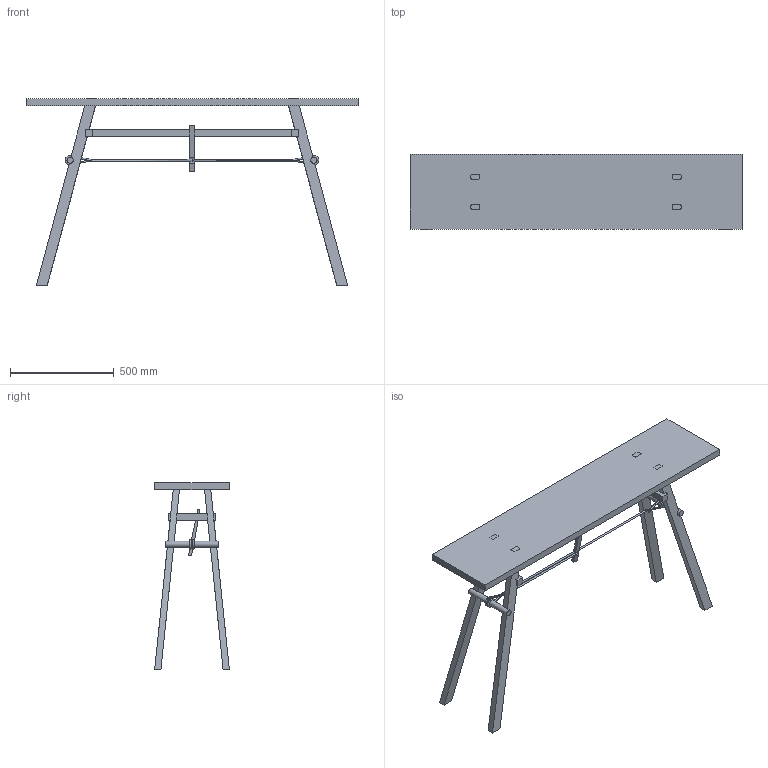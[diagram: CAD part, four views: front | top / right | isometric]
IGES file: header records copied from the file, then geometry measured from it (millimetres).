
Start section: Data from Parasolid IGES Translator 17.0.49, Copyright(c) 2006 Siemens P LM Software. All Rights Reserved.
Global section: file name: Plony.igs; native system: By Siemens PLM Incorporated; preprocessor: XPlus GENERIC/IGES 17.0.49; author: Noname; organization: Noname; date: 20170605.062523; units: metre
Bounding box: 1600 x 360 x 900 mm (x, y, z)
Volume: 27130421.1 mm3; surface area: 2245141.7 mm2
Topology: 30 solids, 30 shells, 242 faces, 480 edges, 299 vertices
Faces by surface type: plane 128, cylinder 74, torus 40
Full cylindrical faces by diameter (mm): 30 x2
